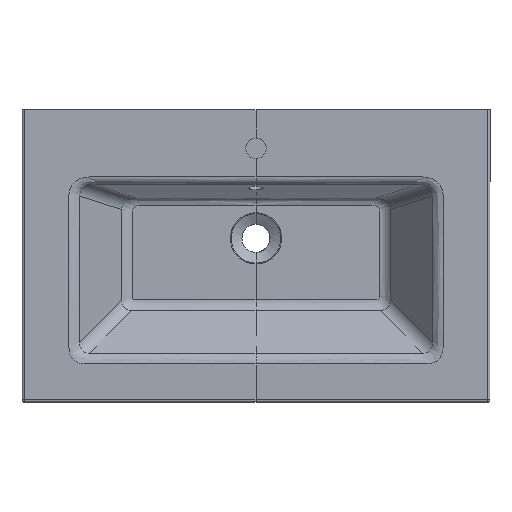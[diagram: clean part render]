
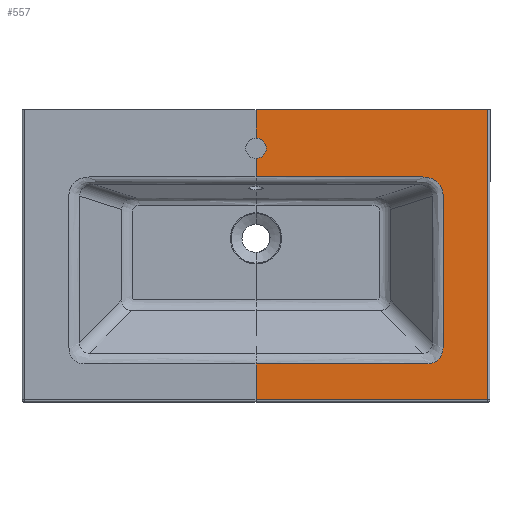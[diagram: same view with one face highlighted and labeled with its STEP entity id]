
A CAD part, top view. The second image highlights one B-rep face of the part: STEP entity #557.
In plain terms, the highlighted planar face has unit normal (0, 0, 1).
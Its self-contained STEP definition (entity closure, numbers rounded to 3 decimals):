
#293=CIRCLE('',#3848,17.5);
#410=PLANE('',#3882);
#557=ADVANCED_FACE('',(#799),#410,.T.);
#799=FACE_OUTER_BOUND('',#1028,.T.);
#1028=EDGE_LOOP('',(#1992,#1993,#1994,#1995,#1996,#1997,#1998,#1999,#2000,
#2001,#2002,#2003));
#1220=LINE('',#11038,#1346);
#1221=LINE('',#11040,#1347);
#1222=LINE('',#11042,#1348);
#1223=LINE('',#11044,#1349);
#1346=VECTOR('',#4323,1.);
#1347=VECTOR('',#4324,1.);
#1348=VECTOR('',#4325,1.);
#1349=VECTOR('',#4326,1.);
#1992=ORIENTED_EDGE('',*,*,#3265,.F.);
#1993=ORIENTED_EDGE('',*,*,#3160,.T.);
#1994=ORIENTED_EDGE('',*,*,#3266,.F.);
#1995=ORIENTED_EDGE('',*,*,#3201,.F.);
#1996=ORIENTED_EDGE('',*,*,#3200,.F.);
#1997=ORIENTED_EDGE('',*,*,#3208,.F.);
#1998=ORIENTED_EDGE('',*,*,#3207,.F.);
#1999=ORIENTED_EDGE('',*,*,#3206,.F.);
#2000=ORIENTED_EDGE('',*,*,#3267,.F.);
#2001=ORIENTED_EDGE('',*,*,#3268,.F.);
#2002=ORIENTED_EDGE('',*,*,#3269,.F.);
#2003=ORIENTED_EDGE('',*,*,#3270,.F.);
#2726=VERTEX_POINT('',#8190);
#2727=VERTEX_POINT('',#8191);
#2732=VERTEX_POINT('',#8245);
#2739=VERTEX_POINT('',#8344);
#2762=VERTEX_POINT('',#9938);
#2763=VERTEX_POINT('',#9939);
#2766=VERTEX_POINT('',#9997);
#2767=VERTEX_POINT('',#10020);
#2806=VERTEX_POINT('',#11035);
#2807=VERTEX_POINT('',#11039);
#2808=VERTEX_POINT('',#11041);
#2809=VERTEX_POINT('',#11043);
#3160=EDGE_CURVE('',#2727,#2726,#293,.T.);
#3200=EDGE_CURVE('',#2762,#2763,#3673,.T.);
#3201=EDGE_CURVE('',#2763,#2739,#3674,.T.);
#3206=EDGE_CURVE('',#2732,#2766,#3679,.T.);
#3207=EDGE_CURVE('',#2766,#2767,#3680,.T.);
#3208=EDGE_CURVE('',#2767,#2762,#3681,.T.);
#3265=EDGE_CURVE('',#2727,#2806,#3698,.T.);
#3266=EDGE_CURVE('',#2739,#2726,#3699,.T.);
#3267=EDGE_CURVE('',#2807,#2732,#1220,.T.);
#3268=EDGE_CURVE('',#2808,#2807,#1221,.T.);
#3269=EDGE_CURVE('',#2809,#2808,#1222,.T.);
#3270=EDGE_CURVE('',#2806,#2809,#1223,.T.);
#3673=B_SPLINE_CURVE_WITH_KNOTS('',3,(#9920,#9921,#9922,#9923,#9924,#9925,
#9926,#9927,#9928,#9929,#9930,#9931,#9932,#9933,#9934,#9935,#9936,#9937),
 .UNSPECIFIED.,.F.,.F.,(4,1,1,1,1,1,1,1,1,1,1,1,1,1,1,4),(0.,0.01,
0.045,0.081,0.152,0.223,
0.294,0.436,0.578,0.72,
0.791,0.827,0.863,0.934,
0.969,1.),.UNSPECIFIED.);
#3674=B_SPLINE_CURVE_WITH_KNOTS('',3,(#9940,#9941,#9942,#9943,#9944,#9945,
#9946,#9947,#9948,#9949,#9950),.UNSPECIFIED.,.F.,.F.,(4,1,1,1,1,1,1,1,4),
(0.,0.001,0.007,0.014,0.026,
0.078,0.18,0.59,1.),
 .UNSPECIFIED.);
#3679=B_SPLINE_CURVE_WITH_KNOTS('',3,(#9985,#9986,#9987,#9988,#9989,#9990,
#9991,#9992,#9993,#9994,#9995,#9996),.UNSPECIFIED.,.F.,.F.,(4,1,1,1,1,1,
1,1,1,4),(0.,0.4,0.8,0.9,0.95,
0.975,0.987,0.994,1.,
1.),.UNSPECIFIED.);
#3680=B_SPLINE_CURVE_WITH_KNOTS('',3,(#9998,#9999,#10000,#10001,#10002,
#10003,#10004,#10005,#10006,#10007,#10008,#10009,#10010,#10011,#10012,#10013,
#10014,#10015,#10016,#10017,#10018,#10019),.UNSPECIFIED.,.F.,.F.,(4,1,1,
1,1,1,1,1,1,1,1,1,1,1,1,1,1,1,1,4),(0.,0.019,0.04,
0.081,0.164,0.205,0.226,
0.246,0.267,0.288,0.329,
0.494,0.577,0.659,0.824,
0.907,0.948,0.969,0.99,
1.),.UNSPECIFIED.);
#3681=B_SPLINE_CURVE_WITH_KNOTS('',3,(#10021,#10022,#10023,#10024,#10025,
#10026,#10027,#10028,#10029,#10030,#10031,#10032,#10033,#10034,#10035),
 .UNSPECIFIED.,.F.,.F.,(4,1,1,1,1,1,1,1,1,1,1,1,4),(0.,0.002,
0.005,0.012,0.026,0.054,
0.5,0.946,0.974,0.988,
0.995,0.998,1.),.UNSPECIFIED.);
#3698=B_SPLINE_CURVE_WITH_KNOTS('',1,(#11033,#11034),.UNSPECIFIED.,.F.,
 .F.,(2,2),(0.,1.),.UNSPECIFIED.);
#3699=B_SPLINE_CURVE_WITH_KNOTS('',1,(#11036,#11037),.UNSPECIFIED.,.F.,
 .F.,(2,2),(0.,1.),.UNSPECIFIED.);
#3848=AXIS2_PLACEMENT_3D('',#8192,#4232,#4233);
#3882=AXIS2_PLACEMENT_3D('',#11045,#4327,#4328);
#4232=DIRECTION('',(0.,0.,-1.));
#4233=DIRECTION('',(-1.,0.,0.));
#4323=DIRECTION('',(0.,1.,0.));
#4324=DIRECTION('',(-1.,0.,0.));
#4325=DIRECTION('',(0.,-1.,0.));
#4326=DIRECTION('',(1.,0.,0.));
#4327=DIRECTION('',(0.,0.,1.));
#4328=DIRECTION('',(1.,0.,0.));
#8190=CARTESIAN_POINT('',(0.,-83.5,0.));
#8191=CARTESIAN_POINT('',(0.,-48.5,0.));
#8192=CARTESIAN_POINT('',(0.,-66.,0.));
#8245=CARTESIAN_POINT('',(0.,-435.,0.));
#8344=CARTESIAN_POINT('',(0.,-115.,0.));
#9920=CARTESIAN_POINT('',(320.002,-145.076,0.));
#9921=CARTESIAN_POINT('',(320.001,-144.91,0.));
#9922=CARTESIAN_POINT('',(319.992,-144.136,0.));
#9923=CARTESIAN_POINT('',(319.922,-142.754,0.));
#9924=CARTESIAN_POINT('',(319.645,-140.334,0.));
#9925=CARTESIAN_POINT('',(319.007,-137.352,0.));
#9926=CARTESIAN_POINT('',(317.768,-133.909,0.));
#9927=CARTESIAN_POINT('',(315.529,-129.572,0.));
#9928=CARTESIAN_POINT('',(311.709,-124.773,0.));
#9929=CARTESIAN_POINT('',(305.895,-120.275,0.));
#9930=CARTESIAN_POINT('',(300.364,-117.658,0.));
#9931=CARTESIAN_POINT('',(296.283,-116.42,0.));
#9932=CARTESIAN_POINT('',(293.909,-115.876,0.));
#9933=CARTESIAN_POINT('',(291.513,-115.439,0.));
#9934=CARTESIAN_POINT('',(289.093,-115.16,0.));
#9935=CARTESIAN_POINT('',(286.743,-115.02,0.));
#9936=CARTESIAN_POINT('',(285.607,-114.997,0.));
#9937=CARTESIAN_POINT('',(285.079,-114.992,0.));
#9938=CARTESIAN_POINT('',(320.001,-145.076,0.));
#9939=CARTESIAN_POINT('',(285.079,-114.991,0.));
#9940=CARTESIAN_POINT('',(285.079,-114.992,0.));
#9941=CARTESIAN_POINT('',(284.998,-114.991,0.));
#9942=CARTESIAN_POINT('',(284.309,-114.986,0.));
#9943=CARTESIAN_POINT('',(283.011,-114.992,0.));
#9944=CARTESIAN_POINT('',(280.576,-114.99,0.));
#9945=CARTESIAN_POINT('',(273.881,-114.992,0.));
#9946=CARTESIAN_POINT('',(258.057,-114.991,0.));
#9947=CARTESIAN_POINT('',(204.498,-114.994,0.));
#9948=CARTESIAN_POINT('',(116.856,-114.996,0.));
#9949=CARTESIAN_POINT('',(38.952,-114.999,0.));
#9950=CARTESIAN_POINT('',(0.,-115.,0.));
#9985=CARTESIAN_POINT('',(0.,-435.,0.));
#9986=CARTESIAN_POINT('',(38.952,-435.,0.));
#9987=CARTESIAN_POINT('',(116.856,-434.999,0.));
#9988=CARTESIAN_POINT('',(204.498,-434.999,0.));
#9989=CARTESIAN_POINT('',(258.057,-435.001,0.));
#9990=CARTESIAN_POINT('',(275.099,-434.999,0.));
#9991=CARTESIAN_POINT('',(283.619,-435.001,0.));
#9992=CARTESIAN_POINT('',(287.88,-434.998,0.));
#9993=CARTESIAN_POINT('',(290.313,-435.003,0.));
#9994=CARTESIAN_POINT('',(291.55,-435.007,0.));
#9995=CARTESIAN_POINT('',(292.178,-434.999,0.));
#9996=CARTESIAN_POINT('',(292.197,-434.999,0.));
#9997=CARTESIAN_POINT('',(292.197,-434.999,0.));
#9998=CARTESIAN_POINT('',(292.197,-434.999,0.));
#9999=CARTESIAN_POINT('',(292.482,-434.995,0.));
#10000=CARTESIAN_POINT('',(293.071,-434.982,0.));
#10001=CARTESIAN_POINT('',(294.269,-434.918,0.));
#10002=CARTESIAN_POINT('',(296.392,-434.755,0.));
#10003=CARTESIAN_POINT('',(298.801,-434.369,0.));
#10004=CARTESIAN_POINT('',(300.864,-433.829,0.));
#10005=CARTESIAN_POINT('',(302.025,-433.464,0.));
#10006=CARTESIAN_POINT('',(302.886,-433.16,0.));
#10007=CARTESIAN_POINT('',(303.737,-432.828,0.));
#10008=CARTESIAN_POINT('',(304.855,-432.347,0.));
#10009=CARTESIAN_POINT('',(307.856,-430.864,0.));
#10010=CARTESIAN_POINT('',(311.315,-428.302,0.));
#10011=CARTESIAN_POINT('',(314.533,-424.631,0.));
#10012=CARTESIAN_POINT('',(317.204,-420.546,0.));
#10013=CARTESIAN_POINT('',(318.968,-415.956,0.));
#10014=CARTESIAN_POINT('',(319.694,-411.756,0.));
#10015=CARTESIAN_POINT('',(319.894,-409.633,0.));
#10016=CARTESIAN_POINT('',(319.97,-408.417,0.));
#10017=CARTESIAN_POINT('',(320.001,-407.656,0.));
#10018=CARTESIAN_POINT('',(320.01,-407.199,0.));
#10019=CARTESIAN_POINT('',(320.012,-407.046,0.));
#10020=CARTESIAN_POINT('',(320.014,-407.046,0.));
#10021=CARTESIAN_POINT('',(320.012,-407.046,0.));
#10022=CARTESIAN_POINT('',(320.014,-406.895,0.));
#10023=CARTESIAN_POINT('',(320.018,-406.439,0.));
#10024=CARTESIAN_POINT('',(320.013,-405.375,0.));
#10025=CARTESIAN_POINT('',(320.016,-403.244,0.));
#10026=CARTESIAN_POINT('',(320.014,-398.984,0.));
#10027=CARTESIAN_POINT('',(320.017,-356.38,0.));
#10028=CARTESIAN_POINT('',(320.002,-276.042,0.));
#10029=CARTESIAN_POINT('',(320.01,-195.703,0.));
#10030=CARTESIAN_POINT('',(319.999,-153.1,0.));
#10031=CARTESIAN_POINT('',(320.002,-148.839,0.));
#10032=CARTESIAN_POINT('',(319.997,-146.709,0.));
#10033=CARTESIAN_POINT('',(320.004,-145.657,0.));
#10034=CARTESIAN_POINT('',(320.003,-145.215,0.));
#10035=CARTESIAN_POINT('',(320.002,-145.076,0.));
#11033=CARTESIAN_POINT('',(0.,-48.5,0.));
#11034=CARTESIAN_POINT('',(0.,0.,0.));
#11035=CARTESIAN_POINT('',(0.,0.,0.));
#11036=CARTESIAN_POINT('',(0.,-115.,0.));
#11037=CARTESIAN_POINT('',(0.,-83.5,0.));
#11038=CARTESIAN_POINT('',(0.,-465.711,0.));
#11039=CARTESIAN_POINT('',(0.,-496.422,0.));
#11040=CARTESIAN_POINT('',(198.211,-496.422,0.));
#11041=CARTESIAN_POINT('',(396.422,-496.422,0.));
#11042=CARTESIAN_POINT('',(396.422,-248.211,0.));
#11043=CARTESIAN_POINT('',(396.422,0.,0.));
#11044=CARTESIAN_POINT('',(198.211,0.,0.));
#11045=CARTESIAN_POINT('',(0.,-505.,0.));
